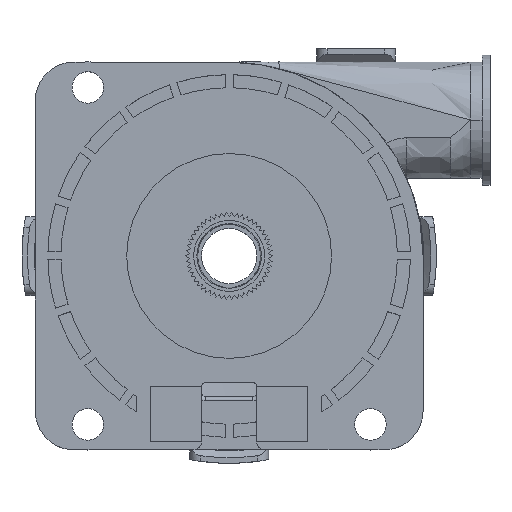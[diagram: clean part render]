
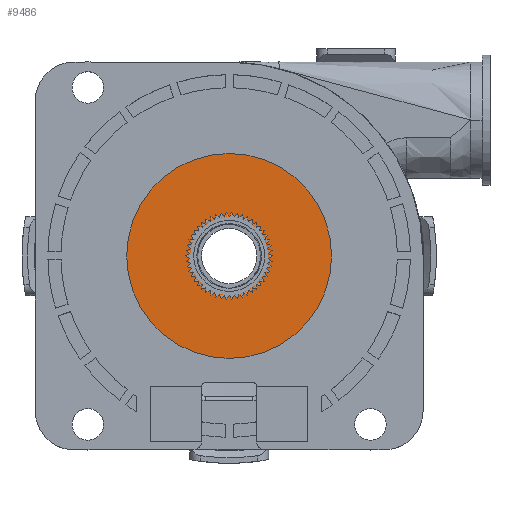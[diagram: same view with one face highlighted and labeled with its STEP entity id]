
A CAD part, top view. The second image highlights one B-rep face of the part: STEP entity #9486.
In plain terms, the highlighted planar face has unit normal (0, 0, 1).
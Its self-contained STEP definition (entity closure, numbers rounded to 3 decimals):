
#5485=CARTESIAN_POINT('',(0.,0.,19.85));
#5486=DIRECTION('',(0.,0.,-1.));
#5487=DIRECTION('',(0.,1.,0.));
#5488=AXIS2_PLACEMENT_3D('',#5485,#5486,#5487);
#5490=CARTESIAN_POINT('',(0.,0.,19.85));
#5491=DIRECTION('',(0.,0.,1.));
#5492=DIRECTION('',(1.,0.,0.));
#5493=AXIS2_PLACEMENT_3D('',#5490,#5491,#5492);
#5495=CARTESIAN_POINT('',(0.,0.,19.85));
#5496=DIRECTION('',(0.,0.,1.));
#5497=DIRECTION('',(-1.,0.,0.));
#5498=AXIS2_PLACEMENT_3D('',#5495,#5496,#5497);
#7319=CARTESIAN_POINT('',(0.,0.,19.85));
#7320=DIRECTION('',(0.,0.,-1.));
#7321=DIRECTION('',(0.,-1.,0.));
#7322=AXIS2_PLACEMENT_3D('',#7319,#7320,#7321);
#8135=CARTESIAN_POINT('',(13.,0.,19.85));
#8136=CARTESIAN_POINT('',(-13.,0.,19.85));
#8137=VERTEX_POINT('',#8135);
#8138=VERTEX_POINT('',#8136);
#8326=CARTESIAN_POINT('',(0.,4.5,19.85));
#8327=CARTESIAN_POINT('',(0.,-4.5,19.85));
#8328=VERTEX_POINT('',#8326);
#8329=VERTEX_POINT('',#8327);
#9470=CARTESIAN_POINT('',(0.,0.,19.85));
#9471=DIRECTION('',(0.,0.,1.));
#9472=DIRECTION('',(1.,0.,0.));
#9473=AXIS2_PLACEMENT_3D('',#9470,#9471,#9472);
#9474=PLANE('',#9473);
#9476=ORIENTED_EDGE('',*,*,#9475,.F.);
#9478=ORIENTED_EDGE('',*,*,#9477,.F.);
#9479=EDGE_LOOP('',(#9476,#9478));
#9480=FACE_OUTER_BOUND('',#9479,.F.);
#9481=ORIENTED_EDGE('',*,*,#9460,.F.);
#9483=ORIENTED_EDGE('',*,*,#9482,.F.);
#9484=EDGE_LOOP('',(#9481,#9483));
#9485=FACE_BOUND('',#9484,.F.);
#9486=ADVANCED_FACE('',(#9480,#9485),#9474,.T.);
#5489=CIRCLE('',#5488,4.5);
#5494=CIRCLE('',#5493,13.);
#5499=CIRCLE('',#5498,13.);
#7323=CIRCLE('',#7322,4.5);
#9460=EDGE_CURVE('',#8328,#8329,#5489,.T.);
#9475=EDGE_CURVE('',#8137,#8138,#5494,.T.);
#9477=EDGE_CURVE('',#8138,#8137,#5499,.T.);
#9482=EDGE_CURVE('',#8329,#8328,#7323,.T.);
